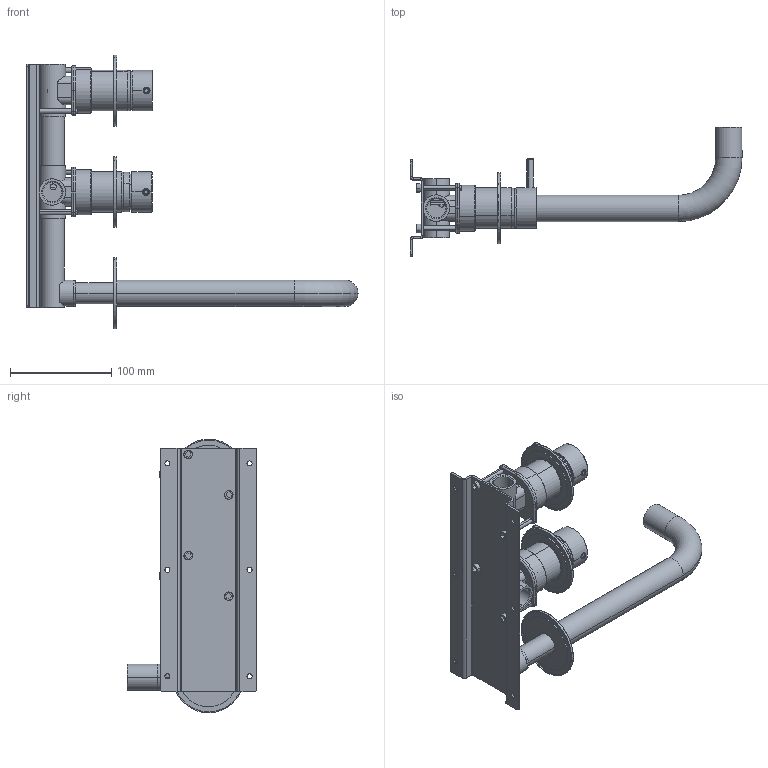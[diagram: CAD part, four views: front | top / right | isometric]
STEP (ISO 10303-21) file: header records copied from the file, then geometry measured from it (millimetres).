
FILE_DESCRIPTION (( 'STEP AP203' ), '1' );
FILE_NAME ('RNN82.STEP', '2024-03-13T15:45:40', ( '' ), ( '' ), 'SwSTEP 2.0', 'SolidWorks 2023', '' );
FILE_SCHEMA (( 'CONFIG_CONTROL_DESIGN' ));
Length unit declared in the file: millimetre
Products named in the file (33): ADATTATORE MEZZO; EROGATORE VASCA E DOCCIA; C12.00.0017; C12.00.0036; C11.14.0009; C47.00.0023.01; C39.00.0033; C47.00.0015; C24.1966.00.0; CAPPUCCIO VERCELLOTTI OTTONE Ø 40; VITETC5x40; AS1041_00; 405-40CPA GEDA; C10.00.0011; 1174; C25.1964.00.0; IST83; 1000; C12.00.0008; RNN82; C24.0705.00.0; C24.2593.00.0; C24.0075.00.0; TUBO DI GIUNZIONE VASCA E DOCCIA; C23.1878.01; C11.14.0003; 1174G; C24.1965.00.0; C24.2664.00; C24.2588.00.1; C10.00.0015; C24.1993.00.0; C24.2712.00
Assembly tree (41 placements, depth 4):
  RNN82
    IST83
      405-40CPA GEDA
        1174G
        EROGATORE VASCA E DOCCIA
        TUBO DI GIUNZIONE VASCA E DOCCIA
        1174
        ADATTATORE MEZZO
      C24.1966.00.0
      C25.1964.00.0
      C24.2593.00.0
      C12.00.0008
      C12.00.0017  x2
      1000  x2
      C47.00.0015
      C10.00.0011
      VITETC5x40  x4
      C24.1993.00.0
      C10.00.0015
      C24.1965.00.0
      C24.0075.00.0
      CAPPUCCIO VERCELLOTTI OTTONE Ø 40
    AS1041_00  x2
      C24.2588.00.1
      C23.1878.01
      C11.14.0009
      C47.00.0023.01
      C11.14.0003
      C24.0705.00.0
    C39.00.0033
    C12.00.0036  x2
    C24.2664.00  x2
    C24.2712.00
Bounding box: 327.5 x 127.5 x 269.96 mm (x, y, z)
Volume: 446698.9 mm3; surface area: 277518.2 mm2
Topology: 47 solids, 48 shells, 1590 faces, 3702 edges, 2308 vertices
Faces by surface type: plane 634, cylinder 611, cone 200, torus 130, bspline 15
Entity records: 38739 total; most frequent: CARTESIAN_POINT 7694, DIRECTION 6202, ORIENTED_EDGE 5326, EDGE_CURVE 2663, AXIS2_PLACEMENT_3D 2477, VERTEX_POINT 1662, EDGE_LOOP 1347, CIRCLE 1278
